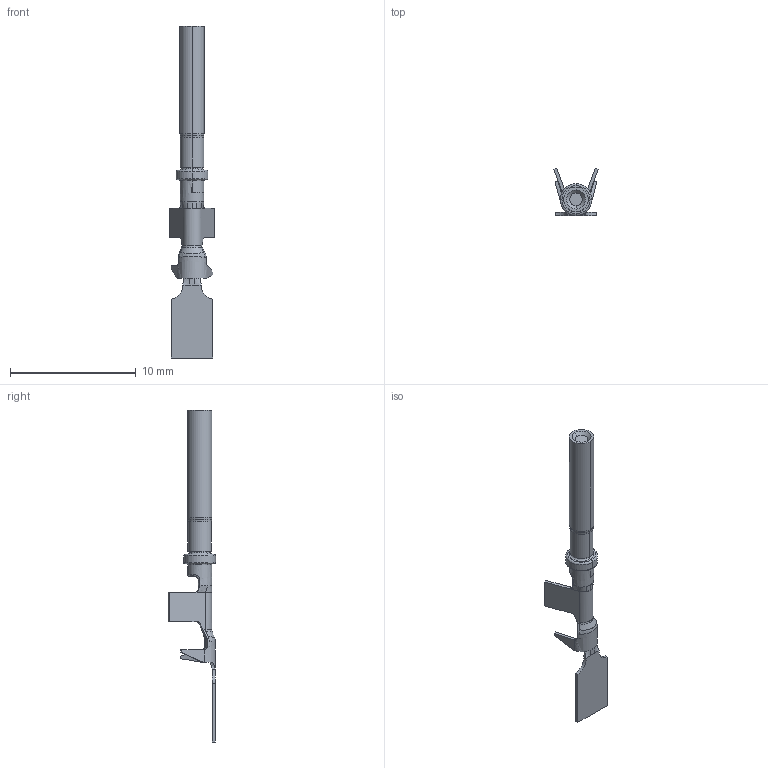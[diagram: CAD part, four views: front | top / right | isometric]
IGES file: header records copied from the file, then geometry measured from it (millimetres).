
Start section:  PTC IGES file: c-1062-20-0222-d-3d.igs
Global section: file name: c-1062-20-0222-d-3d.igs; native system: Creo Parametric by Parametric Technology Corporation; preprocessor: 2013050; author: workeradm; organization: Unknown; units: millimetre
Bounding box: 3.53 x 3.77 x 26.45 mm (x, y, z)
Surface area: 207.8 mm2 (no closed solid volume)
Topology: 0 solids, 0 shells, 138 faces, 794 edges, 794 vertices
Faces by surface type: bspline 97, revolution 41
